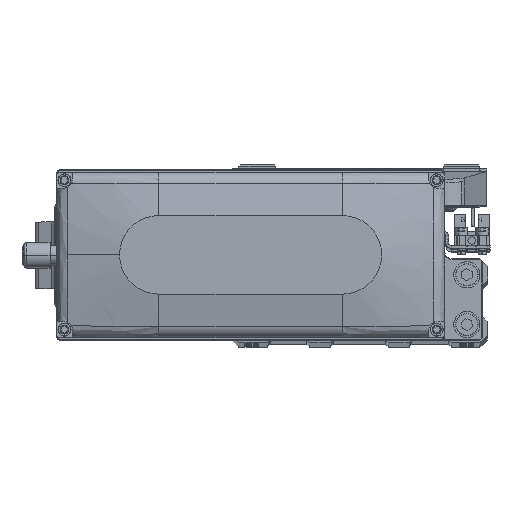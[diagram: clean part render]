
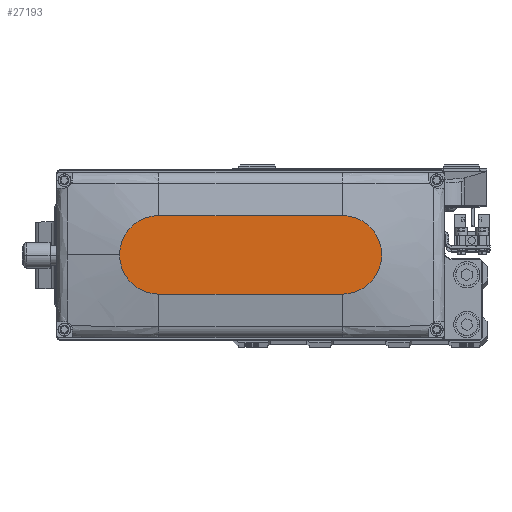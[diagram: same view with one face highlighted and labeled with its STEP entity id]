
A CAD part, top view. The second image highlights one B-rep face of the part: STEP entity #27193.
In plain terms, the highlighted planar face has unit normal (0, 0, 1).
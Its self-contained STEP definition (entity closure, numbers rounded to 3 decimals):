
#829 = AXIS2_PLACEMENT_3D ( 'NONE', #36358, #3437, #18091 ) ;
#1073 = CARTESIAN_POINT ( 'NONE',  ( 35., -15., 35. ) ) ;
#1993 = VERTEX_POINT ( 'NONE', #14396 ) ;
#2270 = CARTESIAN_POINT ( 'NONE',  ( -35., 15., 35. ) ) ;
#3437 = DIRECTION ( 'NONE',  ( 0., 0., 1. ) ) ;
#5117 = VERTEX_POINT ( 'NONE', #13117 ) ;
#5304 = DIRECTION ( 'NONE',  ( 1., 0., 0. ) ) ;
#7039 = FACE_OUTER_BOUND ( 'NONE', #10365, .T. ) ;
#8468 = ORIENTED_EDGE ( 'NONE', *, *, #35353, .T. ) ;
#10365 = EDGE_LOOP ( 'NONE', ( #40831, #31682, #15031, #24802, #8468 ) ) ;
#13117 = CARTESIAN_POINT ( 'NONE',  ( 50., 0., 35. ) ) ;
#14204 = EDGE_CURVE ( 'NONE', #19828, #46326, #44736, .T. ) ;
#14264 = AXIS2_PLACEMENT_3D ( 'NONE', #14936, #29604, #44263 ) ;
#14396 = CARTESIAN_POINT ( 'NONE',  ( 35., 15., 35. ) ) ;
#14936 = CARTESIAN_POINT ( 'NONE',  ( 35., 0., 35. ) ) ;
#15031 = ORIENTED_EDGE ( 'NONE', *, *, #34795, .T. ) ;
#16927 = DIRECTION ( 'NONE',  ( -1., 0., 0. ) ) ;
#17133 = CARTESIAN_POINT ( 'NONE',  ( -35., 0., 35. ) ) ;
#17650 = CARTESIAN_POINT ( 'NONE',  ( 35., 0., 35. ) ) ;
#18091 = DIRECTION ( 'NONE',  ( 1., 0., 0. ) ) ;
#19828 = VERTEX_POINT ( 'NONE', #21148 ) ;
#20469 = EDGE_CURVE ( 'NONE', #1993, #19828, #35181, .T. ) ;
#21148 = CARTESIAN_POINT ( 'NONE',  ( -35., 15., 35. ) ) ;
#21684 = PLANE ( 'NONE',  #829 ) ;
#23565 = LINE ( 'NONE', #38208, #36584 ) ;
#23581 = CIRCLE ( 'NONE', #29723, 15. ) ;
#24022 = AXIS2_PLACEMENT_3D ( 'NONE', #17133, #31786, #46447 ) ;
#24802 = ORIENTED_EDGE ( 'NONE', *, *, #46780, .T. ) ;
#26914 = VERTEX_POINT ( 'NONE', #1073 ) ;
#27193 = ADVANCED_FACE ( 'NONE', ( #7039 ), #21684, .T. ) ;
#29604 = DIRECTION ( 'NONE',  ( 0., 0., 1. ) ) ;
#29723 = AXIS2_PLACEMENT_3D ( 'NONE', #17650, #32305, #46962 ) ;
#31682 = ORIENTED_EDGE ( 'NONE', *, *, #14204, .T. ) ;
#31786 = DIRECTION ( 'NONE',  ( 0., 0., 1. ) ) ;
#31945 = VECTOR ( 'NONE', #16927, 1000. ) ;
#32305 = DIRECTION ( 'NONE',  ( 0., 0., 1. ) ) ;
#34795 = EDGE_CURVE ( 'NONE', #46326, #26914, #23565, .T. ) ;
#34972 = CIRCLE ( 'NONE', #14264, 15. ) ;
#35181 = LINE ( 'NONE', #2270, #31945 ) ;
#35353 = EDGE_CURVE ( 'NONE', #5117, #1993, #23581, .T. ) ;
#36358 = CARTESIAN_POINT ( 'NONE',  ( 0., 0., 35. ) ) ;
#36584 = VECTOR ( 'NONE', #5304, 1000. ) ;
#38208 = CARTESIAN_POINT ( 'NONE',  ( -35., -15., 35. ) ) ;
#40831 = ORIENTED_EDGE ( 'NONE', *, *, #20469, .T. ) ;
#44263 = DIRECTION ( 'NONE',  ( 1., 0., 0. ) ) ;
#44736 = CIRCLE ( 'NONE', #24022, 15. ) ;
#46326 = VERTEX_POINT ( 'NONE', #47445 ) ;
#46447 = DIRECTION ( 'NONE',  ( 1., 0., 0. ) ) ;
#46780 = EDGE_CURVE ( 'NONE', #26914, #5117, #34972, .T. ) ;
#46962 = DIRECTION ( 'NONE',  ( 1., 0., 0. ) ) ;
#47445 = CARTESIAN_POINT ( 'NONE',  ( -35., -15., 35. ) ) ;
